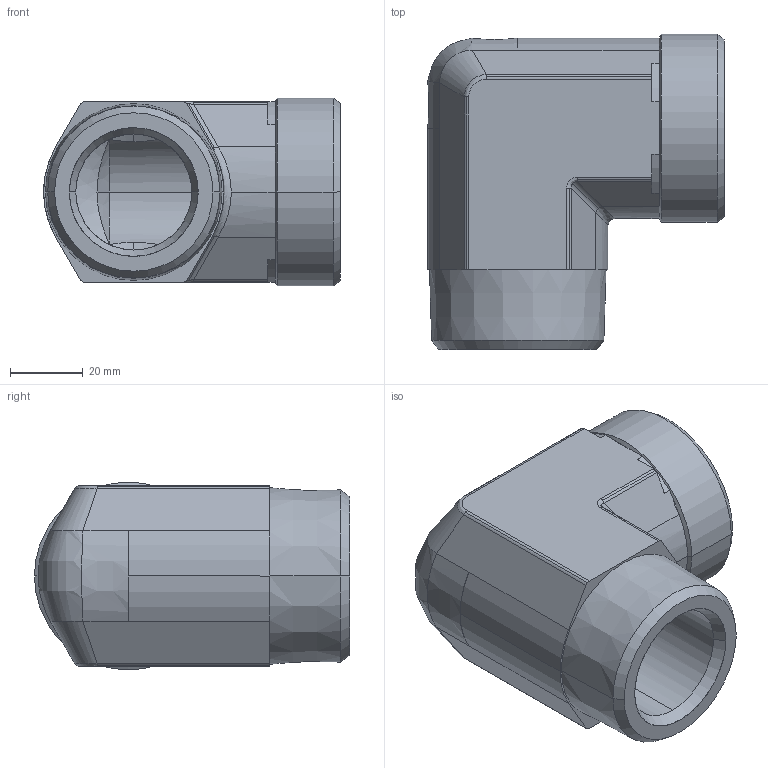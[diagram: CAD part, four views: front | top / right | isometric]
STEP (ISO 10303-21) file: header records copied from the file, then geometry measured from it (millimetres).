
FILE_DESCRIPTION((''),'2;1');
FILE_NAME('102023.stp','2007-10-30T16:36:56',(''),(''),'AutoCAD STEP 2000i','AutoCAD 2000i',', , ');
FILE_SCHEMA(('CONFIG_CONTROL_DESIGN'));
Length unit declared in the file: millimetre
Products named in the file (2): 102023.0; 3090#0
Assembly tree (1 placements, depth 2):
  102023.0
    3090#0
Bounding box: 81.88 x 86.91 x 51.82 mm (x, y, z)
Volume: 137809.7 mm3; surface area: 33105.1 mm2
Topology: 1 solids, 1 shells, 107 faces, 252 edges, 149 vertices
Faces by surface type: cylinder 46, plane 26, cone 21, bspline 14
Entity records: 4053 total; most frequent: CARTESIAN_POINT 1479, DIRECTION 550, ORIENTED_EDGE 504, EDGE_CURVE 252, AXIS2_PLACEMENT_3D 224, VERTEX_POINT 149, CIRCLE 111, EDGE_LOOP 111
